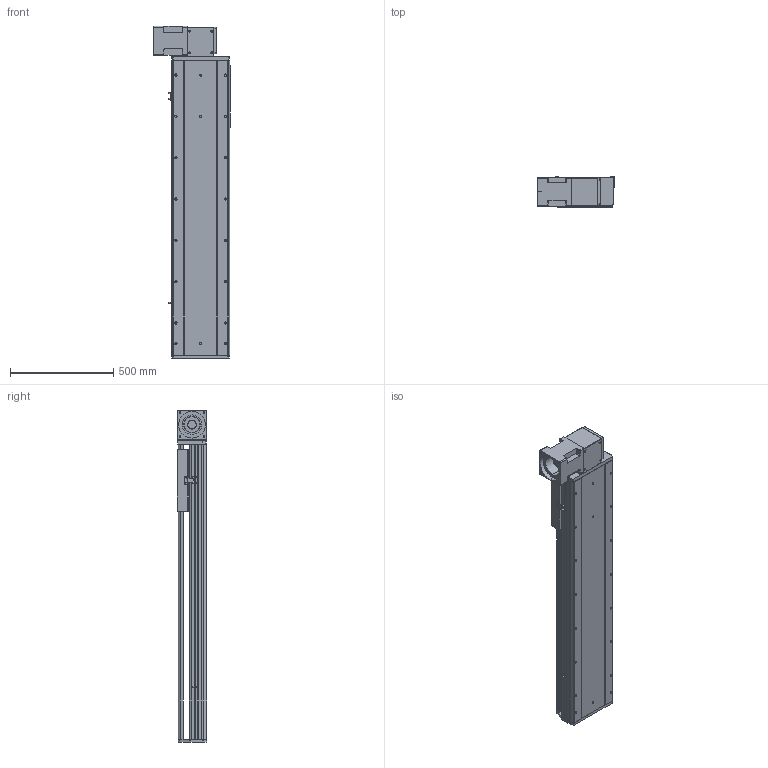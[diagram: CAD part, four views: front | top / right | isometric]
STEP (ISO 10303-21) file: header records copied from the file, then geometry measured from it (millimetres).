
FILE_DESCRIPTION (( 'STEP AP214' ), '1' );
FILE_NAME ('RTB28R-XX-1000-BR-M100-XX-C4.STEP', '2025-12-22T01:10:26', ( '' ), ( '' ), 'SwSTEP 2.0', 'SolidWorks 2018', '' );
FILE_SCHEMA (( 'AUTOMOTIVE_DESIGN' ));
Length unit declared in the file: millimetre
Products named in the file (4): RTB28S-GY-008^RTB28R-XX-XX-BR-M100-XX-C4; RTB28S-GY-004^RTB28R-XX-XX-BR-M100-XX-C4; RTB28S-GY-011^RTB28R-XX-XX-BR-M100-XX-C4; RTB28R-XX-1000-BR-M100-XX-C4
Assembly tree (3 placements, depth 2):
  RTB28R-XX-1000-BR-M100-XX-C4
    RTB28S-GY-011^RTB28R-XX-XX-BR-M100-XX-C4
    RTB28S-GY-004^RTB28R-XX-XX-BR-M100-XX-C4
    RTB28S-GY-008^RTB28R-XX-XX-BR-M100-XX-C4
Bounding box: 370 x 145 x 1607 mm (x, y, z)
Volume: 29611434.2 mm3; surface area: 2862047.4 mm2
Topology: 3 solids, 4 shells, 988 faces, 2610 edges, 1676 vertices
Faces by surface type: plane 456, cylinder 361, bspline 87, cone 80, torus 4
Entity records: 42202 total; most frequent: CARTESIAN_POINT 11245, ORIENTED_EDGE 5156, DIRECTION 4998, EDGE_CURVE 2578, AXIS2_PLACEMENT_3D 1713, VERTEX_POINT 1676, VECTOR 1572, LINE 1572
